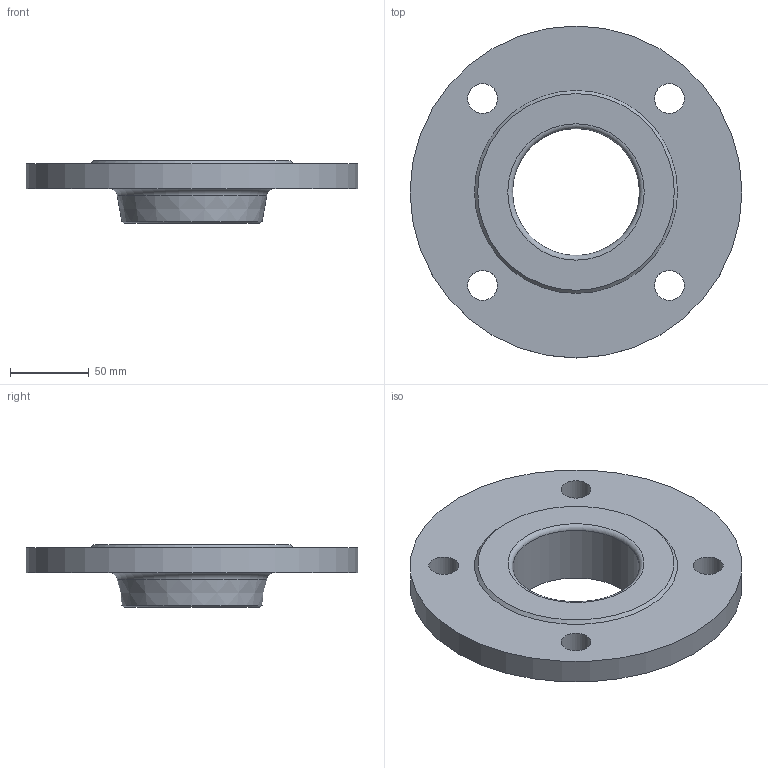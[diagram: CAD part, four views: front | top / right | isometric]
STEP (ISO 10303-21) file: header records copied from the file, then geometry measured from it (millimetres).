
FILE_DESCRIPTION(/* description */ (''),/* implementation_level */ '2;1');
FILE_NAME(/* name */ 'C:\Users\D\Documents\Inventor\HP\JIS\フランジ\水道用フランジF12\RF\ffws_rf_80.stp',/* time_stamp */ '2024-08-28T10:15:35+09:00',/* author */ ('D'),/* organization */ (''),/* preprocessor_version */ 'ST-DEVELOPER v18',/* originating_system */ 'Autodesk Inventor 2020',/* authorisation */ '');
FILE_SCHEMA (('AUTOMOTIVE_DESIGN { 1 0 10303 214 3 1 1 }'));
Length unit declared in the file: millimetre
Products named in the file (1): ffws_rf_80
Bounding box: 211 x 211 x 40 mm (x, y, z)
Volume: 511018.7 mm3; surface area: 86780.6 mm2
Topology: 1 solids, 1 shells, 15 faces, 42 edges, 31 vertices
Faces by surface type: cylinder 6, plane 4, cone 3, torus 2
Full cylindrical faces by diameter (mm): 19 x4, 80.7 x1, 211 x1
Entity records: 582 total; most frequent: DIRECTION 107, CARTESIAN_POINT 89, ORIENTED_EDGE 84, AXIS2_PLACEMENT_3D 49, EDGE_CURVE 42, CIRCLE 33, VERTEX_POINT 31, EDGE_LOOP 27
